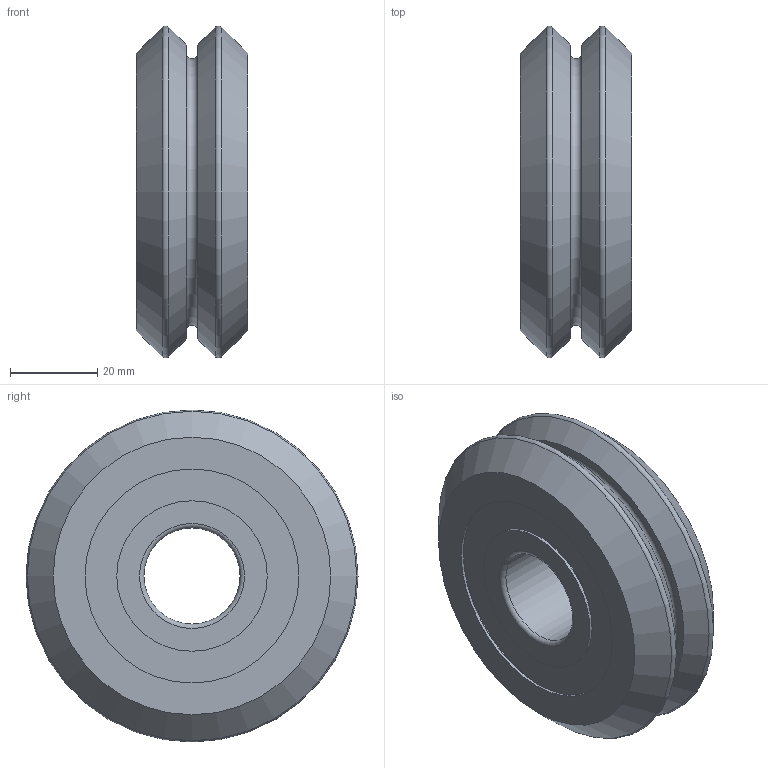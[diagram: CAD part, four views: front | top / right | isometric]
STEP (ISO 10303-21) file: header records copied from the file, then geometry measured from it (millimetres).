
FILE_DESCRIPTION( ( 'STEP AP214' ), '1' );
FILE_NAME( 'p:/temp/worker_39/temp/app_45_02019012316244132254143192d056f_000000_00_00_000000/format_0/W4XXL.stp', '2019-01-23T15:24:41', ( '' ), ( '' ), ' ', 'PARTsolutions', ' ' );
FILE_SCHEMA( ( 'AUTOMOTIVE_DESIGN { 1 0 10303 214 1 1 1 1 }' ) );
Length unit declared in the file: inch
Products named in the file (1): _W4XXL
Bounding box: 25.4 x 75.96 x 75.96 mm (x, y, z)
Volume: 85331.5 mm3; surface area: 17277.7 mm2
Topology: 1 solids, 1 shells, 30 faces, 48 edges, 30 vertices
Faces by surface type: plane 12, cylinder 9, torus 5, cone 4
Full cylindrical faces by diameter (mm): 21.999 x1, 33.02 x2, 34.417 x2, 48.958 x2, 50.355 x2
Entity records: 872 total; most frequent: DIRECTION 122, CARTESIAN_POINT 93, AXIS2_PLACEMENT_3D 61, EDGE_LOOP 60, ORIENTED_EDGE 60, FACE_OUTER_BOUND 44, VERTEX_POINT 32, STYLED_ITEM 30
